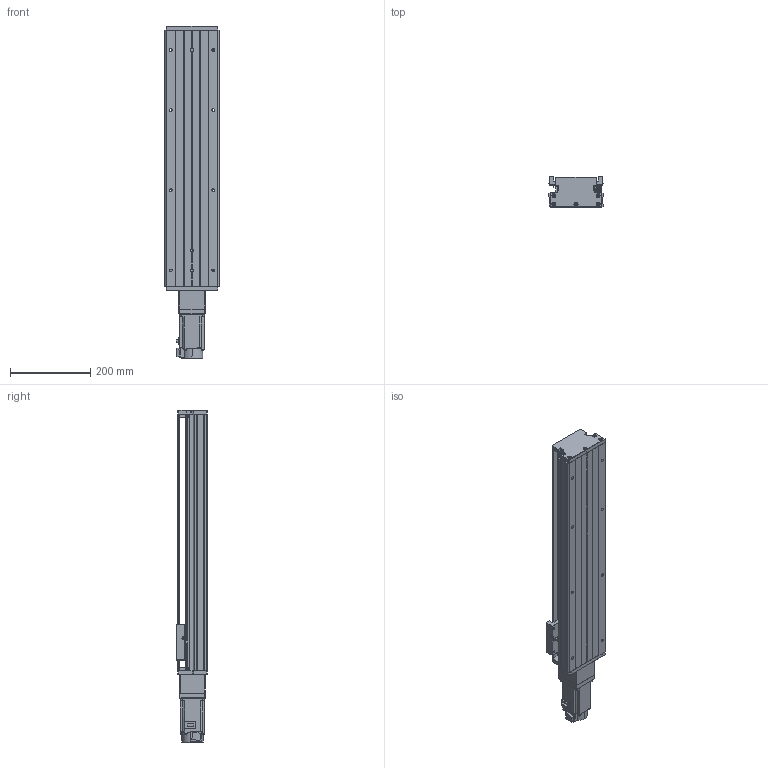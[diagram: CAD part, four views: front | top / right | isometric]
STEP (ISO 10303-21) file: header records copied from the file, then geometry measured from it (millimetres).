
FILE_DESCRIPTION (( 'STEP AP203' ), '1' );
FILE_NAME ('KTH130-500-BC-M40-C4.step', '2023-06-30T03:54:33', ( '微软用户' ), ( '微软中国' ), 'SwSTEP 2.0', 'SolidWorks 2020', '' );
FILE_SCHEMA (( 'CONFIG_CONTROL_DESIGN' ));
Length unit declared in the file: millimetre
Products named in the file (19): CTHA60-016; GTH14-001_500; CTHA86-027-1; GBT 70.1-M3℅5; KTH130-002_KTH130-002; HG-KN43J-S100; GB1155-6X6; GBT77-2000 M3×3; KTH130-004; KTH130-500-BC-M40-C4; GBT70.1 M5℅16; す晦芛蹟隊 M3℅5; KTH130-005; GBT 70.2-M3¡Á5_M3¡Á6; GBT 70.3-M3℅8; CTHA60-017; CTHA86-006-1_M40; EE_SX911P_R; CTHA86-013
Assembly tree (52 placements, depth 2):
  KTH130-500-BC-M40-C4
    GTH14-001_500
    KTH130-002_KTH130-002
    KTH130-004
    KTH130-005
    GB1155-6X6  x2
    GBT70.1 M5℅16  x10
    GBT 70.2-M3¡Á5_M3¡Á6  x4
    CTHA60-017  x3
    EE_SX911P_R  x3
    CTHA60-016  x2
    GBT 70.1-M3℅5  x6
    GBT77-2000 M3×3  x6
    す晦芛蹟隊 M3℅5  x2
    GBT 70.3-M3℅8  x6
    CTHA86-006-1_M40
    CTHA86-013
    CTHA86-027-1
    HG-KN43J-S100
Bounding box: 135 x 78 x 828.7 mm (x, y, z)
Volume: 4211710.9 mm3; surface area: 656379.1 mm2
Topology: 55 solids, 55 shells, 2172 faces, 5254 edges, 3278 vertices
Faces by surface type: plane 1192, cylinder 592, cone 280, torus 96, sphere 12
Entity records: 39574 total; most frequent: CARTESIAN_POINT 8426, DIRECTION 5865, ORIENTED_EDGE 5792, EDGE_CURVE 2896, AXIS2_PLACEMENT_3D 1991, LINE 1883, VECTOR 1883, VERTEX_POINT 1850
